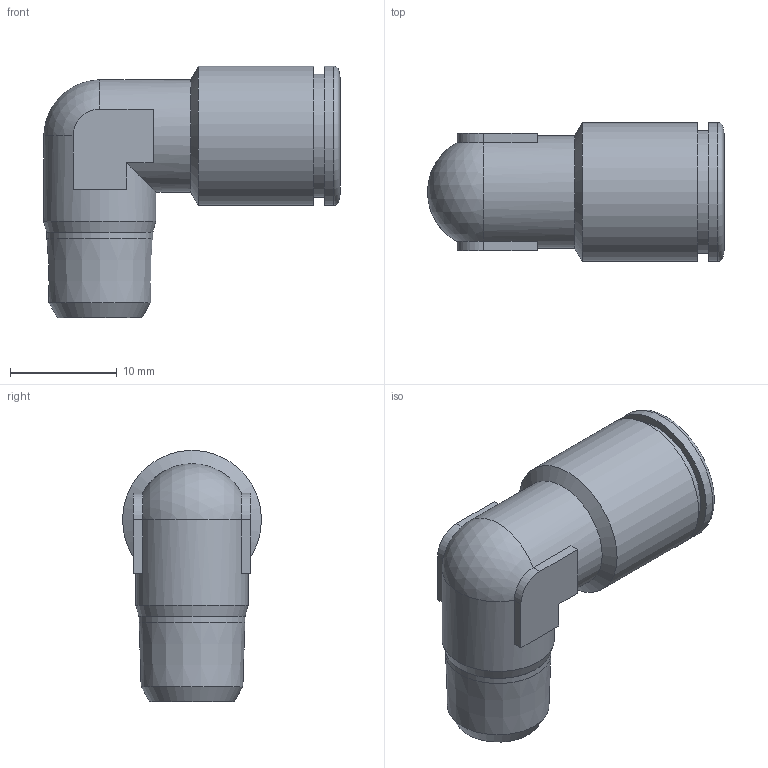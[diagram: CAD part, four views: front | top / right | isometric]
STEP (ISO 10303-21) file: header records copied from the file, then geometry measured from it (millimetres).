
FILE_DESCRIPTION(/* description */ (''),/* implementation_level */ '2;1');
FILE_NAME(/* name */ '201905-ES_STX019_8_R18_09.06.16',/* time_stamp */ '2016-06-09T10:19:07+02:00',/* author */ (''),/* organization */ (''),/* preprocessor_version */ 'ST-DEVELOPER v14',/* originating_system */ 'HiCAD 2013 1802.4 Build 509',/* authorisation */ '');
FILE_SCHEMA (('AUTOMOTIVE_DESIGN { 1 0 10303 214 1 1 1 1 }'));
Length unit declared in the file: millimetre
Products named in the file (3): Root; R201905-ES-N1; DR8-1_NEU
Assembly tree (2 placements, depth 2):
  Root
    R201905-ES-N1
    DR8-1_NEU
Bounding box: 27.75 x 13 x 23.5 mm (x, y, z)
Volume: 2268.3 mm3; surface area: 2971.5 mm2
Topology: 2 solids, 2 shells, 52 faces, 115 edges, 69 vertices
Faces by surface type: plane 21, cylinder 15, cone 14, sphere 1, torus 1
Full cylindrical faces by diameter (mm): 4 x1, 7 x1, 8.1 x1, 8.2 x1, 9.884 x1, 10.1 x1, 10.5 x2, 11 x1, 11.5 x1, 11.6 x1, 13 x2
Entity records: 2726 total; most frequent: CARTESIAN_POINT 773, DIRECTION 234, PRESENTATION_STYLE_ASSIGNMENT 172, OVER_RIDING_STYLED_ITEM 170, COLOUR_RGB 164, DRAUGHTING_PRE_DEFINED_CURVE_FONT 162, CURVE_STYLE 162, ORIENTED_EDGE 162
